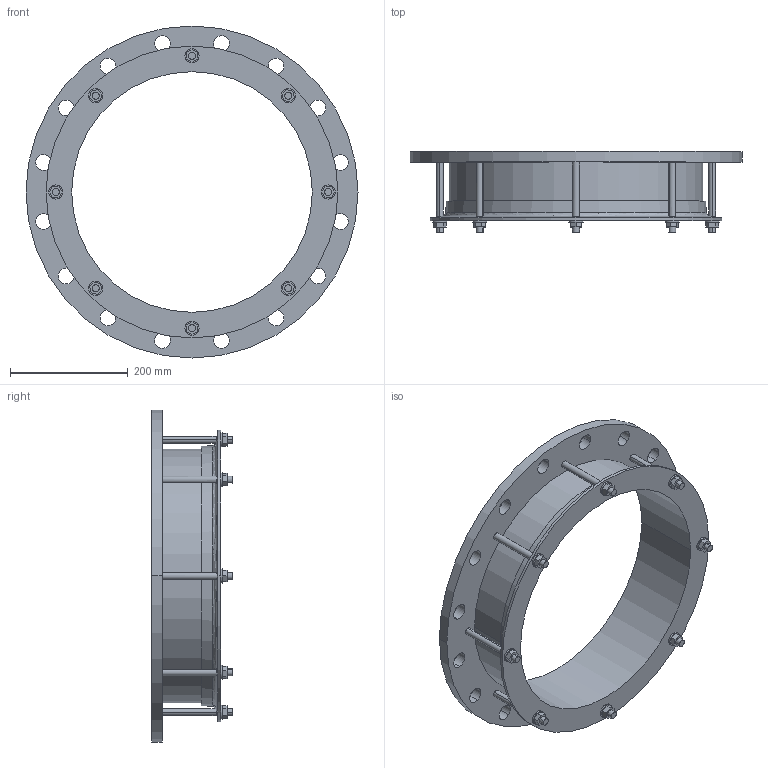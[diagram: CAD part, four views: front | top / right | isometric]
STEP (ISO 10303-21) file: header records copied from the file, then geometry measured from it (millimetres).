
FILE_DESCRIPTION((''),'2;1');
FILE_NAME('406X400PN10','2019-01-16T',('mfairey'),('Glynwed Pipe Systems'),'CREO PARAMETRIC BY PTC INC, 2016130','CREO PARAMETRIC BY PTC INC, 2016130','');
FILE_SCHEMA(('CONFIG_CONTROL_DESIGN'));
Length unit declared in the file: millimetre
Products named in the file (1): 406X400PN10
Bounding box: 565 x 137.45 x 565 mm (x, y, z)
Volume: 4074834.2 mm3; surface area: 684986.3 mm2
Topology: 1 solids, 1 shells, 170 faces, 446 edges, 296 vertices
Faces by surface type: cylinder 88, plane 76, cone 4, torus 2
Entity records: 5836 total; most frequent: CARTESIAN_POINT 1390, DIRECTION 924, ORIENTED_EDGE 892, EDGE_CURVE 446, AXIS2_PLACEMENT_3D 344, VERTEX_POINT 296, EDGE_LOOP 238, VECTOR 236
